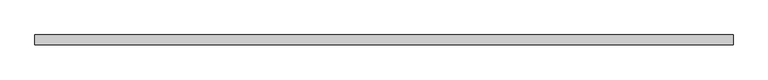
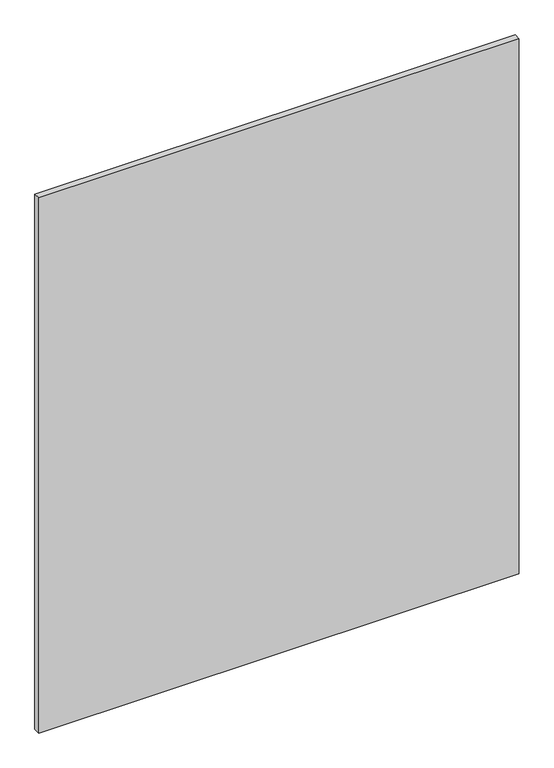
"""IFC4 building model written with IfcOpenShell, lengths in millimetres: plate geometry, 系统嵌板 : 玻璃."""

from ifc_helpers import new_model, si_unit, origin, origin_with_axes, place, context, project, spatial, polyline, outline, extrude, source, transform, mapped, element, save


def plate_2a900eb7(model_context):
    return source(origin(), model_context, "Body", "SweptSolid", [
        extrude(outline(polyline([(902.5000032, -12.5), (-902.5000032, -12.5), (-902.5000032, 12.5), (902.5000032, 12.5), (902.5000032, -12.5)])), origin_with_axes(), (0.0, 0.0, 1.0), 2125.0),
    ])


if __name__ == "__main__":
    model = new_model("IFC4")
    model_context = context("Model", 3, world=origin())
    ifc_project = project(units=[si_unit("LENGTHUNIT", "METRE", prefix="MILLI")], contexts=[model_context])
    site = spatial("IfcSite", under=ifc_project)
    building = spatial("IfcBuilding", under=site)
    placement = place(None, origin())
    plate_shape = plate_2a900eb7(model_context)
    element("IfcPlate", 1, ObjectType="系统嵌板 : 玻璃", at=placement, inside=building, context=model_context, shape_type="MappedRepresentation", body=[
        mapped(plate_shape, transform((0.0, 0.0, 0.0), x_axis=(1.0, 0.0, 0.0), y_axis=(0.0, 1.0, 0.0), z_axis=(0.0, 0.0, 1.0))),
    ])
    save(model, "model.ifc")
